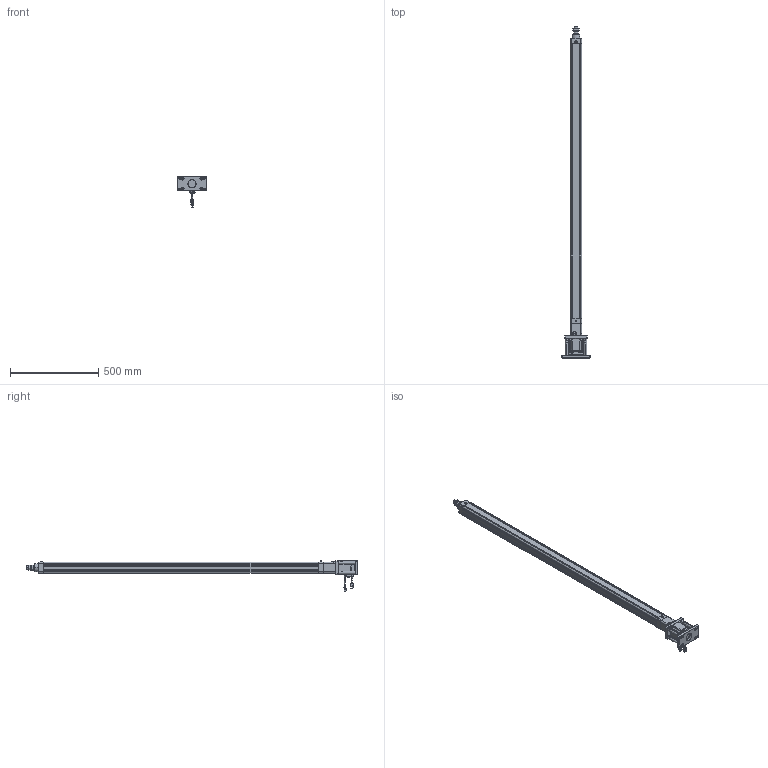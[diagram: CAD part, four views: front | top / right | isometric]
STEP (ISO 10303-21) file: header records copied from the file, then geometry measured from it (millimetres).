
FILE_DESCRIPTION((''),'2;1');
FILE_NAME('HE50-D-100-X1_ASM','2020-04-25T',('ASUS20200'),(''),'CREO PARAMETRIC BY PTC INC, 2014190','CREO PARAMETRIC BY PTC INC, 2014190','');
FILE_SCHEMA(('CONFIG_CONTROL_DESIGN'));
Length unit declared in the file: millimetre
Products named in the file (28): HE50-D-P-001-X1; HE50-D-P-002-X1; HE50-D-P-003-X1; HE50-D-009-X1; HE50-D-010-X1; 6301ZZ; LGLM-M8-22; SKT-16; SLM-01; YZ-M6X1; _MHMF082L1A2; _CABLE_MOTOR_BOTTOM_05; _CABLE_MOTOR_TOP_05; _MOTOR_CONNECTOR_2; _CABLE_BRAKE_BOTTOM_05; _CABLE_BRAKE_TOP_05; _MHMF_CONNECTOR_9_PIN_A6; MHMF082L1A2M2_1_ASM; M6X16; JX6X6X20; JDB303820; HE50-FB-LG; F-HE50FB; M8X20; HE50-D-P-005-X1; HE50-D-P-004-X1; HE50-D-P-008-X1; HE50-D-100-X1_ASM
Assembly tree (47 placements, depth 3):
  HE50-D-100-X1_ASM
    HE50-D-P-001-X1
    HE50-D-P-002-X1
    HE50-D-P-003-X1
    HE50-D-009-X1
    HE50-D-010-X1
    6301ZZ
    LGLM-M8-22  x8
    SKT-16
    SLM-01
    YZ-M6X1
    MHMF082L1A2M2_1_ASM
      _MHMF082L1A2
      _CABLE_MOTOR_BOTTOM_05
      _CABLE_MOTOR_TOP_05
      _MOTOR_CONNECTOR_2
      _CABLE_BRAKE_BOTTOM_05
      _CABLE_BRAKE_TOP_05
      _MHMF_CONNECTOR_9_PIN_A6
    M6X16  x4
    JX6X6X20
    JDB303820
    HE50-FB-LG  x4
    F-HE50FB
    M8X20  x8
    HE50-D-P-005-X1
    HE50-D-P-004-X1
    HE50-D-P-008-X1
Bounding box: 160 x 1876.5 x 173.65 mm (x, y, z)
Volume: 4008654.7 mm3; surface area: 1212241.9 mm2
Topology: 46 solids, 82 shells, 2686 faces, 6465 edges, 4029 vertices
Faces by surface type: plane 1093, cylinder 795, cone 617, torus 134, sphere 44, bspline 3
Entity records: 64336 total; most frequent: CARTESIAN_POINT 11909, DIRECTION 11625, ORIENTED_EDGE 10210, EDGE_CURVE 5155, AXIS2_PLACEMENT_3D 4412, VERTEX_POINT 3246, VECTOR 2801, LINE 2801
